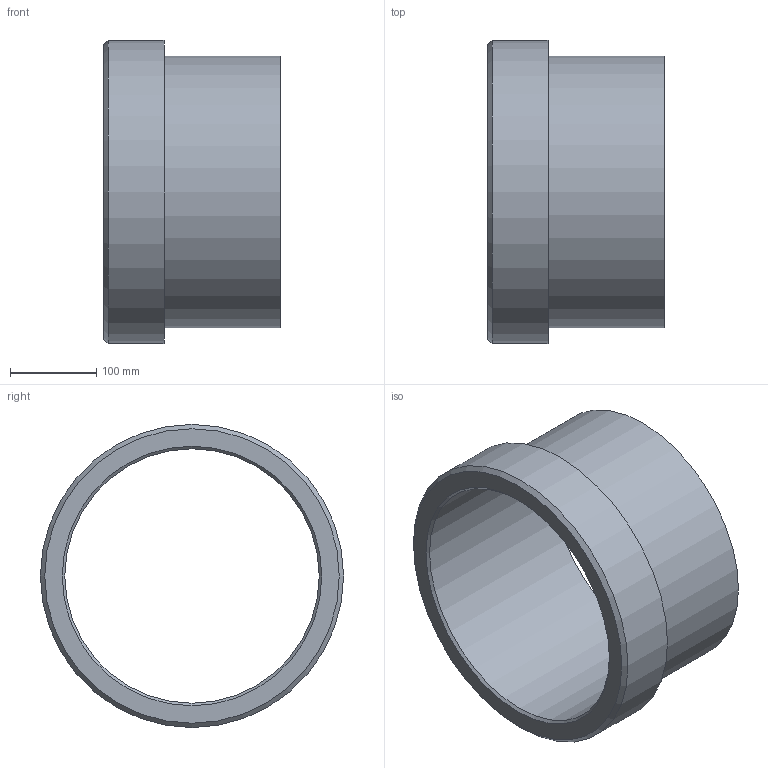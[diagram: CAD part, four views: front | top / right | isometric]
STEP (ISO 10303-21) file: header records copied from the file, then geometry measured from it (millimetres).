
FILE_DESCRIPTION(/* description */ (''),/* implementation_level */ '2;1');
FILE_NAME(/* name */ 'Z:\Geberit\Export\NewStep\372739.stp',/* time_stamp */ '2014-04-02T08:07:10+02:00',/* author */ ('ML'),/* organization */ (''),/* preprocessor_version */ 'ST-DEVELOPER v15.2',/* originating_system */ 'Autodesk Inventor 2014',/* authorisation */ '');
FILE_SCHEMA (('AUTOMOTIVE_DESIGN { 1 0 10303 214 3 1 1 }'));
Length unit declared in the file: millimetre
Products named in the file (1): 372739
Bounding box: 205 x 352 x 352 mm (x, y, z)
Volume: 3265159.9 mm3; surface area: 453918.3 mm2
Topology: 1 solids, 1 shells, 8 faces, 13 edges, 8 vertices
Faces by surface type: plane 3, cylinder 3, cone 2
Full cylindrical faces by diameter (mm): 295.4 x1, 315 x1, 352 x1
Entity records: 197 total; most frequent: DIRECTION 34, CARTESIAN_POINT 25, AXIS2_PLACEMENT_3D 17, EDGE_LOOP 16, ORIENTED_EDGE 16, FACE_BOUND 11, STYLED_ITEM 9, CIRCLE 8
